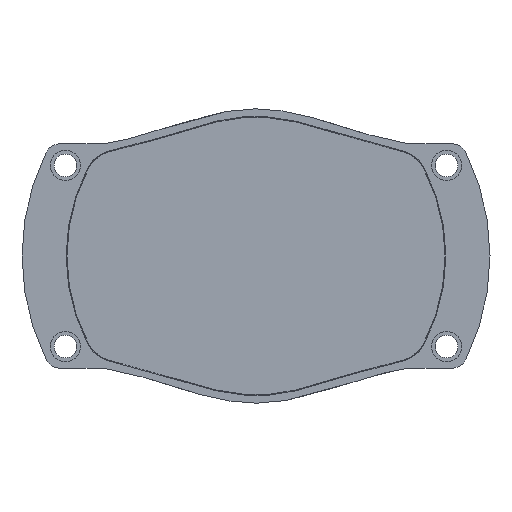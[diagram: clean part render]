
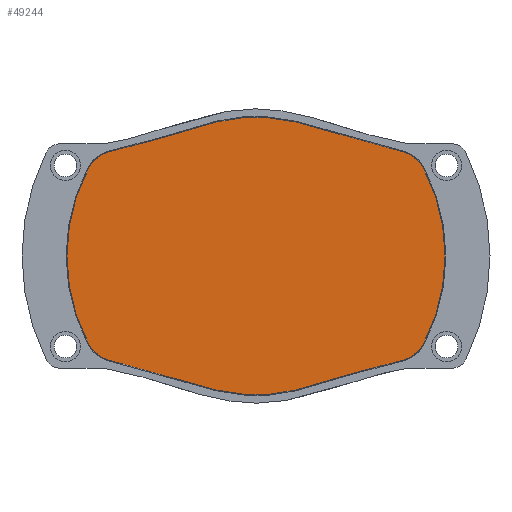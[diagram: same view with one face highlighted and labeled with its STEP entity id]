
A CAD part, front view. The second image highlights one B-rep face of the part: STEP entity #49244.
In plain terms, the highlighted planar face has unit normal (0, -1, 0) as drawn and (-1, 0, 0) by its records, which use the part's own axes.
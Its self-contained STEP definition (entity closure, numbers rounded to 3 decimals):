
#49011=CARTESIAN_POINT('',(0.,44.466,23.078));
#49012=CARTESIAN_POINT('',(0.,44.145,23.696));
#49013=CARTESIAN_POINT('',(0.,43.36,24.861));
#49014=CARTESIAN_POINT('',(0.,41.812,26.3));
#49015=CARTESIAN_POINT('',(0.,39.978,27.347));
#49016=CARTESIAN_POINT('',(0.,38.631,27.748));
#49017=CARTESIAN_POINT('',(0.,37.946,27.87));
#49019=CARTESIAN_POINT('',(0.,37.946,27.87));
#49020=CARTESIAN_POINT('',(0.,36.335,28.156));
#49021=CARTESIAN_POINT('',(0.,32.913,28.926));
#49022=CARTESIAN_POINT('',(0.,27.57,30.486));
#49023=CARTESIAN_POINT('',(0.,21.968,32.3));
#49024=CARTESIAN_POINT('',(0.,16.458,34.012));
#49025=CARTESIAN_POINT('',(0.,11.305,35.386));
#49026=CARTESIAN_POINT('',(0.,6.587,36.321));
#49027=CARTESIAN_POINT('',(0.,2.191,36.811));
#49028=CARTESIAN_POINT('',(0.,-2.112,36.816));
#49029=CARTESIAN_POINT('',(0.,-6.512,36.333));
#49030=CARTESIAN_POINT('',(0.,-11.232,35.403));
#49031=CARTESIAN_POINT('',(0.,-16.367,34.038));
#49032=CARTESIAN_POINT('',(0.,-21.868,32.333));
#49033=CARTESIAN_POINT('',(0.,-27.479,30.514));
#49034=CARTESIAN_POINT('',(0.,-32.864,28.937));
#49035=CARTESIAN_POINT('',(0.,-36.32,28.158));
#49036=CARTESIAN_POINT('',(0.,-37.946,27.87));
#49038=CARTESIAN_POINT('',(0.,-37.946,27.87));
#49039=CARTESIAN_POINT('',(0.,-38.632,27.748));
#49040=CARTESIAN_POINT('',(0.,-39.978,27.347));
#49041=CARTESIAN_POINT('',(0.,-41.813,26.299));
#49042=CARTESIAN_POINT('',(0.,-43.361,24.86));
#49043=CARTESIAN_POINT('',(0.,-44.145,23.695));
#49044=CARTESIAN_POINT('',(0.,-44.466,23.078));
#49046=CARTESIAN_POINT('',(0.,0.,0.));
#49047=DIRECTION('',(1.,0.,0.));
#49048=DIRECTION('',(0.,-0.888,0.461));
#49049=AXIS2_PLACEMENT_3D('',#49046,#49047,#49048);
#49051=CARTESIAN_POINT('',(0.,-44.466,-23.078));
#49052=CARTESIAN_POINT('',(0.,-44.145,-23.695));
#49053=CARTESIAN_POINT('',(0.,-43.361,-24.86));
#49054=CARTESIAN_POINT('',(0.,-41.813,-26.299));
#49055=CARTESIAN_POINT('',(0.,-39.978,-27.347));
#49056=CARTESIAN_POINT('',(0.,-38.632,-27.748));
#49057=CARTESIAN_POINT('',(0.,-37.946,-27.87));
#49059=CARTESIAN_POINT('',(0.,-37.946,-27.87));
#49060=CARTESIAN_POINT('',(0.,-36.329,-28.157));
#49061=CARTESIAN_POINT('',(0.,-32.893,-28.93));
#49062=CARTESIAN_POINT('',(0.,-27.527,-30.499));
#49063=CARTESIAN_POINT('',(0.,-21.9,-32.322));
#49064=CARTESIAN_POINT('',(0.,-16.362,-34.041));
#49065=CARTESIAN_POINT('',(0.,-11.186,-35.414));
#49066=CARTESIAN_POINT('',(0.,-6.45,-36.343));
#49067=CARTESIAN_POINT('',(0.,-2.042,-36.82));
#49068=CARTESIAN_POINT('',(0.,2.257,-36.806));
#49069=CARTESIAN_POINT('',(0.,6.639,-36.312));
#49070=CARTESIAN_POINT('',(0.,11.338,-35.377));
#49071=CARTESIAN_POINT('',(0.,16.455,-34.012));
#49072=CARTESIAN_POINT('',(0.,21.932,-32.312));
#49073=CARTESIAN_POINT('',(0.,27.522,-30.501));
#49074=CARTESIAN_POINT('',(0.,32.883,-28.933));
#49075=CARTESIAN_POINT('',(0.,36.328,-28.157));
#49076=CARTESIAN_POINT('',(0.,37.946,-27.87));
#49078=CARTESIAN_POINT('',(0.,37.946,-27.87));
#49079=CARTESIAN_POINT('',(0.,38.632,-27.748));
#49080=CARTESIAN_POINT('',(0.,39.978,-27.347));
#49081=CARTESIAN_POINT('',(0.,41.813,-26.299));
#49082=CARTESIAN_POINT('',(0.,43.361,-24.86));
#49083=CARTESIAN_POINT('',(0.,44.145,-23.695));
#49084=CARTESIAN_POINT('',(0.,44.466,-23.078));
#49086=CARTESIAN_POINT('',(0.,0.,0.));
#49087=DIRECTION('',(1.,0.,0.));
#49088=DIRECTION('',(0.,0.888,-0.461));
#49089=AXIS2_PLACEMENT_3D('',#49086,#49087,#49088);
#49203=VERTEX_POINT('',#49011);
#49204=VERTEX_POINT('',#49017);
#49205=VERTEX_POINT('',#49036);
#49206=VERTEX_POINT('',#49044);
#49207=CARTESIAN_POINT('',(0.,-44.466,-23.078));
#49208=VERTEX_POINT('',#49207);
#49209=VERTEX_POINT('',#49057);
#49210=VERTEX_POINT('',#49076);
#49211=VERTEX_POINT('',#49084);
#49221=CARTESIAN_POINT('',(0.,0.,0.));
#49222=DIRECTION('',(1.,0.,0.));
#49223=DIRECTION('',(0.,-1.,0.));
#49224=AXIS2_PLACEMENT_3D('',#49221,#49222,#49223);
#49225=PLANE('',#49224);
#49227=ORIENTED_EDGE('',*,*,#49226,.T.);
#49229=ORIENTED_EDGE('',*,*,#49228,.T.);
#49231=ORIENTED_EDGE('',*,*,#49230,.T.);
#49233=ORIENTED_EDGE('',*,*,#49232,.T.);
#49235=ORIENTED_EDGE('',*,*,#49234,.T.);
#49237=ORIENTED_EDGE('',*,*,#49236,.T.);
#49239=ORIENTED_EDGE('',*,*,#49238,.T.);
#49241=ORIENTED_EDGE('',*,*,#49240,.T.);
#49242=EDGE_LOOP('',(#49227,#49229,#49231,#49233,#49235,#49237,#49239,#49241));
#49243=FACE_OUTER_BOUND('',#49242,.F.);
#49244=ADVANCED_FACE('',(#49243),#49225,.F.);
#49018=B_SPLINE_CURVE_WITH_KNOTS('',3,(#49011,#49012,#49013,#49014,#49015,
#49016,#49017),.UNSPECIFIED.,.F.,.F.,(4,1,1,1,4),(0.,0.249,
0.5,0.751,1.),.UNSPECIFIED.);
#49037=B_SPLINE_CURVE_WITH_KNOTS('',3,(#49019,#49020,#49021,#49022,#49023,
#49024,#49025,#49026,#49027,#49028,#49029,#49030,#49031,#49032,#49033,#49034,
#49035,#49036),.UNSPECIFIED.,.F.,.F.,(4,1,1,1,1,1,1,1,1,1,1,1,1,1,1,4),(0.,
0.067,0.142,0.221,0.296,
0.363,0.423,0.475,0.524,
0.577,0.636,0.703,0.777,
0.857,0.932,1.),.UNSPECIFIED.);
#49045=B_SPLINE_CURVE_WITH_KNOTS('',3,(#49038,#49039,#49040,#49041,#49042,
#49043,#49044),.UNSPECIFIED.,.F.,.F.,(4,1,1,1,4),(0.,0.249,
0.5,0.751,1.),.UNSPECIFIED.);
#49050=CIRCLE('',#49049,50.098);
#49058=B_SPLINE_CURVE_WITH_KNOTS('',3,(#49051,#49052,#49053,#49054,#49055,
#49056,#49057),.UNSPECIFIED.,.F.,.F.,(4,1,1,1,4),(0.,0.249,
0.5,0.751,1.),.UNSPECIFIED.);
#49077=B_SPLINE_CURVE_WITH_KNOTS('',3,(#49059,#49060,#49061,#49062,#49063,
#49064,#49065,#49066,#49067,#49068,#49069,#49070,#49071,#49072,#49073,#49074,
#49075,#49076),.UNSPECIFIED.,.F.,.F.,(4,1,1,1,1,1,1,1,1,1,1,1,1,1,1,4),(0.,
0.067,0.142,0.222,0.298,
0.365,0.424,0.477,0.526,
0.578,0.637,0.704,0.778,
0.857,0.933,1.),.UNSPECIFIED.);
#49085=B_SPLINE_CURVE_WITH_KNOTS('',3,(#49078,#49079,#49080,#49081,#49082,
#49083,#49084),.UNSPECIFIED.,.F.,.F.,(4,1,1,1,4),(0.,0.249,
0.5,0.751,1.),.UNSPECIFIED.);
#49090=CIRCLE('',#49089,50.098);
#49226=EDGE_CURVE('',#49203,#49204,#49018,.T.);
#49228=EDGE_CURVE('',#49204,#49205,#49037,.T.);
#49230=EDGE_CURVE('',#49205,#49206,#49045,.T.);
#49232=EDGE_CURVE('',#49206,#49208,#49050,.T.);
#49234=EDGE_CURVE('',#49208,#49209,#49058,.T.);
#49236=EDGE_CURVE('',#49209,#49210,#49077,.T.);
#49238=EDGE_CURVE('',#49210,#49211,#49085,.T.);
#49240=EDGE_CURVE('',#49211,#49203,#49090,.T.);
